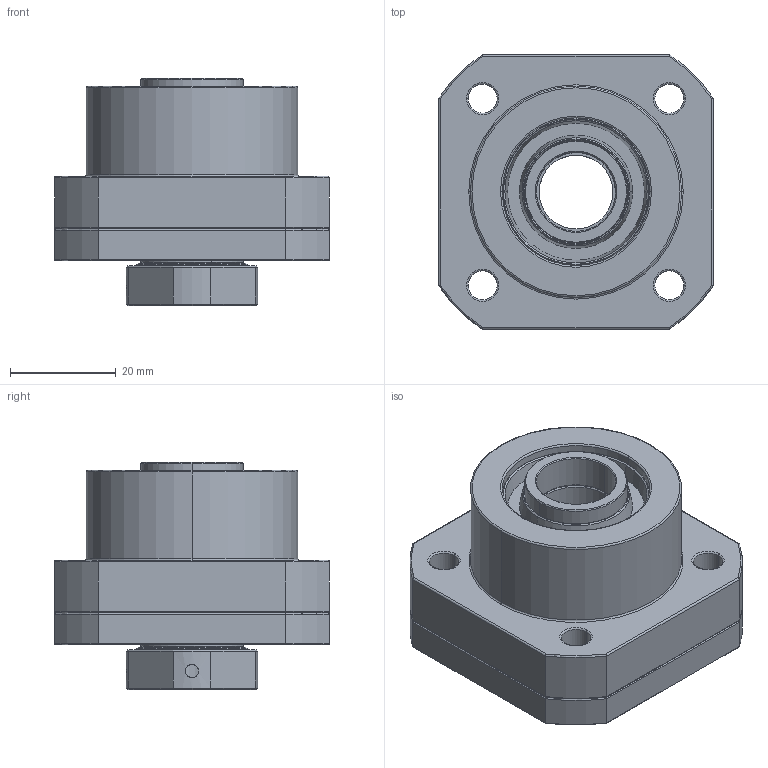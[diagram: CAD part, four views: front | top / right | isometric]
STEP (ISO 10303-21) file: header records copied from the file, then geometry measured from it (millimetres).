
FILE_DESCRIPTION (( 'STEP AP214' ), '1' );
FILE_NAME ('2.4037 Kuularuuvin tukilaakeri FK15.STEP', '2025-10-03T12:29:17', ( '' ), ( '' ), 'SwSTEP 2.0', 'SolidWorks 2025', '' );
FILE_SCHEMA (( 'AUTOMOTIVE_DESIGN' ));
Length unit declared in the file: millimetre
Products named in the file (9): Sleeve1; Lock Nut_GRLN15-B; 2.4037 Kuularuuvin tukilaakeri FK15; angular contact ball bearing_68_iso_ISO 15 ABB - 1015 - 12,DE,AC,12_68; Cover_FK15 - Cover; Seal_FK15 - Seal; Frame; socket countersunk head screw_din_DIN 7991 - M4 x 8 --- 5.6N; Sleeve
Assembly tree (13 placements, depth 2):
  2.4037 Kuularuuvin tukilaakeri FK15
    Cover_FK15 - Cover
    Seal_FK15 - Seal  x2
    Lock Nut_GRLN15-B
    angular contact ball bearing_68_iso_ISO 15 ABB - 1015 - 12,DE,AC,12_68  x2
    socket countersunk head screw_din_DIN 7991 - M4 x 8 --- 5.6N  x4
    Frame
    Sleeve1
    Sleeve
Bounding box: 52 x 52 x 43 mm (x, y, z)
Volume: 49050.8 mm3; surface area: 34078.1 mm2
Topology: 13 solids, 13 shells, 758 faces, 2104 edges, 1278 vertices
Faces by surface type: plane 201, sphere 144, cylinder 142, torus 140, cone 106, bspline 25
Entity records: 25536 total; most frequent: CARTESIAN_POINT 7740, ORIENTED_EDGE 2564, DIRECTION 2524, EDGE_CURVE 1282, AXIS2_PLACEMENT_3D 1065, VERTEX_POINT 781, EDGE_LOOP 589, CIRCLE 566
